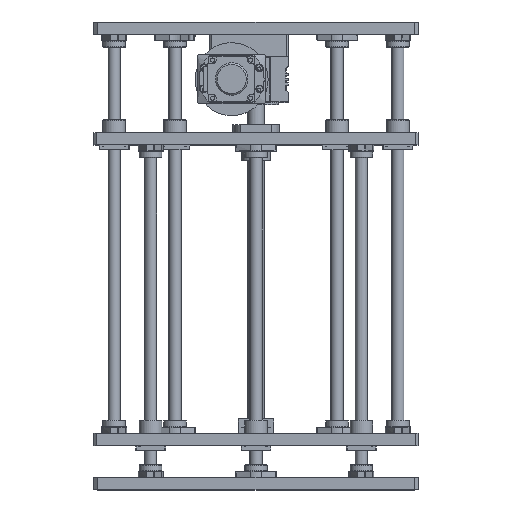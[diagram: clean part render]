
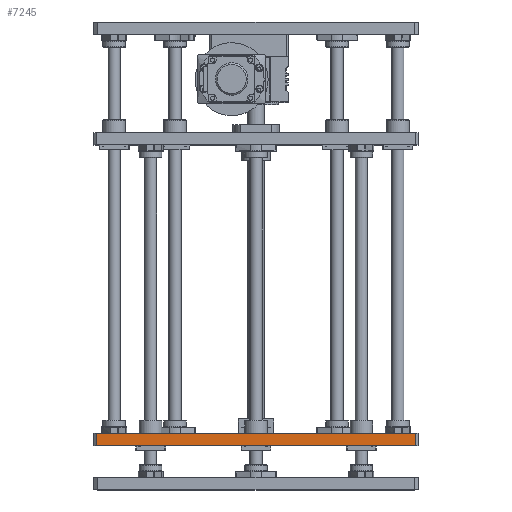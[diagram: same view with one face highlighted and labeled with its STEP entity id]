
A CAD part, top view. The second image highlights one B-rep face of the part: STEP entity #7245.
In plain terms, the highlighted planar face has unit normal (0, 0, 1) as drawn and (0.199, -0.98, 0.015) by its records, which use the part's own axes.
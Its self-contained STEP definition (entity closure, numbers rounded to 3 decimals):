
#367 = VECTOR ( 'NONE', #60336, 1000. ) ;
#3033 = ORIENTED_EDGE ( 'NONE', *, *, #18445, .F. ) ;
#4287 = VERTEX_POINT ( 'NONE', #12519 ) ;
#6904 = VECTOR ( 'NONE', #22907, 1000. ) ;
#7245 = ADVANCED_FACE ( 'NONE', ( #68626 ), #13533, .F. ) ;
#7888 = LINE ( 'NONE', #12629, #367 ) ;
#8885 = LINE ( 'NONE', #64948, #69828 ) ;
#10740 = LINE ( 'NONE', #17247, #66100 ) ;
#12519 = CARTESIAN_POINT ( 'NONE',  ( -398.098, 239.77, -301.762 ) ) ;
#12629 = CARTESIAN_POINT ( 'NONE',  ( -91.609, 298.448, -542.297 ) ) ;
#13533 = PLANE ( 'NONE',  #66321 ) ;
#13783 = DIRECTION ( 'NONE',  ( -0.98, -0.199, 0. ) ) ;
#17247 = CARTESIAN_POINT ( 'NONE',  ( -91.609, 298.448, -542.297 ) ) ;
#18445 = EDGE_CURVE ( 'NONE', #29449, #4287, #7888, .T. ) ;
#18605 = EDGE_CURVE ( 'NONE', #71181, #60579, #38781, .T. ) ;
#22744 = DIRECTION ( 'NONE',  ( -0.596, -0.134, -0.792 ) ) ;
#22907 = DIRECTION ( 'NONE',  ( 0.778, 0.149, -0.61 ) ) ;
#27648 = ORIENTED_EDGE ( 'NONE', *, *, #40586, .T. ) ;
#29449 = VERTEX_POINT ( 'NONE', #41722 ) ;
#35057 = EDGE_LOOP ( 'NONE', ( #3033, #27648, #52575, #73105 ) ) ;
#38781 = LINE ( 'NONE', #52013, #6904 ) ;
#39417 = CARTESIAN_POINT ( 'NONE',  ( -389.159, 241.773, -289.884 ) ) ;
#40586 = EDGE_CURVE ( 'NONE', #29449, #60579, #10740, .T. ) ;
#41722 = CARTESIAN_POINT ( 'NONE',  ( -91.609, 298.448, -542.297 ) ) ;
#52013 = CARTESIAN_POINT ( 'NONE',  ( -82.67, 300.451, -530.419 ) ) ;
#52575 = ORIENTED_EDGE ( 'NONE', *, *, #18605, .F. ) ;
#60336 = DIRECTION ( 'NONE',  ( -0.778, -0.149, 0.61 ) ) ;
#60554 = CARTESIAN_POINT ( 'NONE',  ( -82.67, 300.451, -530.419 ) ) ;
#60579 = VERTEX_POINT ( 'NONE', #60554 ) ;
#61215 = DIRECTION ( 'NONE',  ( -0.199, 0.98, -0.015 ) ) ;
#61744 = CARTESIAN_POINT ( 'NONE',  ( -89.275, 298.895, -544.129 ) ) ;
#64689 = DIRECTION ( 'NONE',  ( 0.596, 0.134, 0.792 ) ) ;
#64948 = CARTESIAN_POINT ( 'NONE',  ( -389.159, 241.773, -289.884 ) ) ;
#66100 = VECTOR ( 'NONE', #64689, 1000. ) ;
#66321 = AXIS2_PLACEMENT_3D ( 'NONE', #61744, #61215, #13783 ) ;
#68626 = FACE_OUTER_BOUND ( 'NONE', #35057, .T. ) ;
#69828 = VECTOR ( 'NONE', #22744, 1000. ) ;
#71181 = VERTEX_POINT ( 'NONE', #39417 ) ;
#73105 = ORIENTED_EDGE ( 'NONE', *, *, #77107, .T. ) ;
#77107 = EDGE_CURVE ( 'NONE', #71181, #4287, #8885, .T. ) ;
